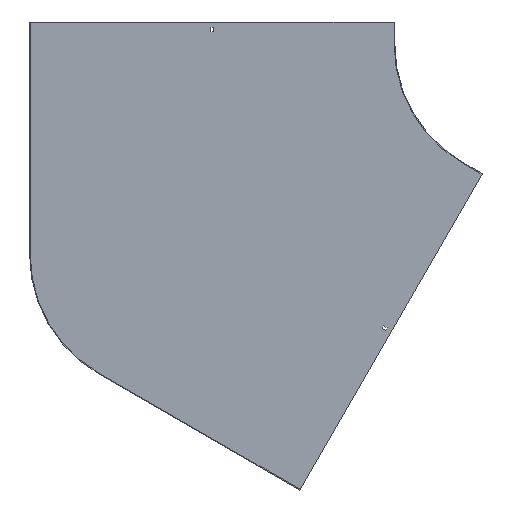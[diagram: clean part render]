
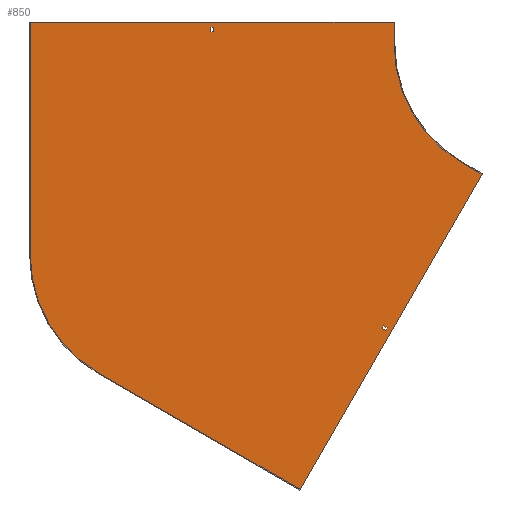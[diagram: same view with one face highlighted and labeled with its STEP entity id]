
A CAD part, front view. The second image highlights one B-rep face of the part: STEP entity #850.
In plain terms, the highlighted planar face has unit normal (0, -1, 0).
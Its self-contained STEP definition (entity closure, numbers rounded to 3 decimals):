
#2 = AXIS2_PLACEMENT_3D ( 'NONE', #111, #252, #511 ) ;
#13 = VERTEX_POINT ( 'NONE', #115 ) ;
#15 = CARTESIAN_POINT ( 'NONE',  ( -950., -1.5, -721.688 ) ) ;
#20 = VERTEX_POINT ( 'NONE', #434 ) ;
#23 = LINE ( 'NONE', #667, #153 ) ;
#24 = CARTESIAN_POINT ( 'NONE',  ( 0., -1.5, 29. ) ) ;
#28 = CARTESIAN_POINT ( 'NONE',  ( -506.699, -1.5, -977.628 ) ) ;
#30 = CARTESIAN_POINT ( 'NONE',  ( -703.25, -1.5, 0. ) ) ;
#42 = DIRECTION ( 'NONE',  ( 0., 0., -1. ) ) ;
#49 = ORIENTED_EDGE ( 'NONE', *, *, #489, .F. ) ;
#66 = FACE_BOUND ( 'NONE', #806, .T. ) ;
#81 = CARTESIAN_POINT ( 'NONE',  ( -348.375, -1.5, -603.403 ) ) ;
#82 = DIRECTION ( 'NONE',  ( 0., -1., 0. ) ) ;
#91 = VERTEX_POINT ( 'NONE', #487 ) ;
#99 = VERTEX_POINT ( 'NONE', #553 ) ;
#111 = CARTESIAN_POINT ( 'NONE',  ( -800., -1.5, -461.88 ) ) ;
#115 = CARTESIAN_POINT ( 'NONE',  ( -300., -1.5, 50. ) ) ;
#120 = CIRCLE ( 'NONE', #166, 300. ) ;
#127 = EDGE_CURVE ( 'NONE', #20, #676, #754, .T. ) ;
#131 = CARTESIAN_POINT ( 'NONE',  ( -105.949, -1.5, -283.509 ) ) ;
#142 = PLANE ( 'NONE',  #452 ) ;
#152 = DIRECTION ( 'NONE',  ( -1., 0., 0. ) ) ;
#153 = VECTOR ( 'NONE', #539, 1000. ) ;
#164 = CARTESIAN_POINT ( 'NONE',  ( -326.51, -1.5, -623.532 ) ) ;
#166 = AXIS2_PLACEMENT_3D ( 'NONE', #306, #435, #42 ) ;
#171 = EDGE_CURVE ( 'NONE', #405, #863, #294, .T. ) ;
#175 = DIRECTION ( 'NONE',  ( 0., 0., -1. ) ) ;
#177 = EDGE_CURVE ( 'NONE', #311, #99, #120, .T. ) ;
#183 = VECTOR ( 'NONE', #664, 1000. ) ;
#189 = EDGE_CURVE ( 'NONE', #863, #441, #261, .T. ) ;
#198 = LINE ( 'NONE', #467, #286 ) ;
#211 = DIRECTION ( 'NONE',  ( 0.866, 0., -0.5 ) ) ;
#220 = VECTOR ( 'NONE', #759, 1000. ) ;
#228 = LINE ( 'NONE', #442, #653 ) ;
#232 = EDGE_CURVE ( 'NONE', #262, #602, #393, .T. ) ;
#237 = FACE_OUTER_BOUND ( 'NONE', #580, .T. ) ;
#240 = DIRECTION ( 'NONE',  ( 0., 0., 1. ) ) ;
#251 = ORIENTED_EDGE ( 'NONE', *, *, #668, .F. ) ;
#252 = DIRECTION ( 'NONE',  ( 0., 1., 0. ) ) ;
#258 = CARTESIAN_POINT ( 'NONE',  ( -318.716, -1.5, -628.032 ) ) ;
#261 = CIRCLE ( 'NONE', #2, 300. ) ;
#262 = VERTEX_POINT ( 'NONE', #812 ) ;
#263 = VECTOR ( 'NONE', #175, 1000. ) ;
#267 = LINE ( 'NONE', #131, #183 ) ;
#274 = LINE ( 'NONE', #541, #462 ) ;
#276 = ORIENTED_EDGE ( 'NONE', *, *, #171, .F. ) ;
#286 = VECTOR ( 'NONE', #729, 1000. ) ;
#289 = ORIENTED_EDGE ( 'NONE', *, *, #232, .F. ) ;
#292 = FACE_BOUND ( 'NONE', #509, .T. ) ;
#294 = LINE ( 'NONE', #28, #536 ) ;
#297 = CARTESIAN_POINT ( 'NONE',  ( -1100., -1.5, -461.88 ) ) ;
#306 = CARTESIAN_POINT ( 'NONE',  ( 0., -1.5, 0. ) ) ;
#308 = EDGE_CURVE ( 'NONE', #99, #91, #274, .T. ) ;
#311 = VERTEX_POINT ( 'NONE', #337 ) ;
#312 = ORIENTED_EDGE ( 'NONE', *, *, #177, .F. ) ;
#324 = ORIENTED_EDGE ( 'NONE', *, *, #127, .T. ) ;
#337 = CARTESIAN_POINT ( 'NONE',  ( -300., -1.5, 0. ) ) ;
#345 = CARTESIAN_POINT ( 'NONE',  ( -300., -1.5, 50. ) ) ;
#367 = ORIENTED_EDGE ( 'NONE', *, *, #847, .F. ) ;
#372 = VECTOR ( 'NONE', #152, 1000. ) ;
#383 = VECTOR ( 'NONE', #649, 1000. ) ;
#393 = LINE ( 'NONE', #81, #607 ) ;
#405 = VERTEX_POINT ( 'NONE', #558 ) ;
#412 = DIRECTION ( 'NONE',  ( -0.866, 0., 0.5 ) ) ;
#434 = CARTESIAN_POINT ( 'NONE',  ( -703.25, -1.5, 38. ) ) ;
#435 = DIRECTION ( 'NONE',  ( 0., -1., 0. ) ) ;
#440 = ORIENTED_EDGE ( 'NONE', *, *, #538, .T. ) ;
#441 = VERTEX_POINT ( 'NONE', #535 ) ;
#442 = CARTESIAN_POINT ( 'NONE',  ( 32.909, -1.5, -19. ) ) ;
#452 = AXIS2_PLACEMENT_3D ( 'NONE', #673, #82, #659 ) ;
#462 = VECTOR ( 'NONE', #211, 1000. ) ;
#467 = CARTESIAN_POINT ( 'NONE',  ( -1101.5, -1.5, 50. ) ) ;
#473 = LINE ( 'NONE', #24, #372 ) ;
#486 = CARTESIAN_POINT ( 'NONE',  ( -696.75, -1.5, 38. ) ) ;
#487 = CARTESIAN_POINT ( 'NONE',  ( -106.699, -1.5, -284.808 ) ) ;
#488 = LINE ( 'NONE', #345, #263 ) ;
#489 = EDGE_CURVE ( 'NONE', #91, #405, #267, .T. ) ;
#492 = DIRECTION ( 'NONE',  ( 0.866, 0., -0.5 ) ) ;
#497 = CARTESIAN_POINT ( 'NONE',  ( -1100., -1.5, 50. ) ) ;
#505 = CARTESIAN_POINT ( 'NONE',  ( -351.625, -1.5, -609.032 ) ) ;
#509 = EDGE_LOOP ( 'NONE', ( #289, #251, #609, #367 ) ) ;
#511 = DIRECTION ( 'NONE',  ( 0., 0., -1. ) ) ;
#524 = EDGE_CURVE ( 'NONE', #699, #13, #198, .T. ) ;
#528 = ORIENTED_EDGE ( 'NONE', *, *, #714, .T. ) ;
#535 = CARTESIAN_POINT ( 'NONE',  ( -1100., -1.5, -461.88 ) ) ;
#536 = VECTOR ( 'NONE', #412, 1000. ) ;
#537 = VECTOR ( 'NONE', #492, 1000. ) ;
#538 = EDGE_CURVE ( 'NONE', #556, #626, #473, .T. ) ;
#539 = DIRECTION ( 'NONE',  ( -0.5, 0., -0.866 ) ) ;
#541 = CARTESIAN_POINT ( 'NONE',  ( -150., -1.5, -259.808 ) ) ;
#553 = CARTESIAN_POINT ( 'NONE',  ( -150., -1.5, -259.808 ) ) ;
#556 = VERTEX_POINT ( 'NONE', #818 ) ;
#558 = CARTESIAN_POINT ( 'NONE',  ( -506.699, -1.5, -977.628 ) ) ;
#560 = ORIENTED_EDGE ( 'NONE', *, *, #724, .F. ) ;
#568 = DIRECTION ( 'NONE',  ( 0.5, 0., 0.866 ) ) ;
#578 = VECTOR ( 'NONE', #240, 1000. ) ;
#579 = CARTESIAN_POINT ( 'NONE',  ( -696.75, -1.5, 0. ) ) ;
#580 = EDGE_LOOP ( 'NONE', ( #862, #654, #768, #276, #49, #751, #312, #560 ) ) ;
#585 = EDGE_CURVE ( 'NONE', #676, #556, #657, .T. ) ;
#602 = VERTEX_POINT ( 'NONE', #788 ) ;
#607 = VECTOR ( 'NONE', #610, 1000. ) ;
#609 = ORIENTED_EDGE ( 'NONE', *, *, #666, .F. ) ;
#610 = DIRECTION ( 'NONE',  ( -0.866, 0., 0.5 ) ) ;
#626 = VERTEX_POINT ( 'NONE', #717 ) ;
#633 = LINE ( 'NONE', #297, #578 ) ;
#635 = VECTOR ( 'NONE', #762, 1000. ) ;
#649 = DIRECTION ( 'NONE',  ( 0., 0., -1. ) ) ;
#653 = VECTOR ( 'NONE', #568, 1000. ) ;
#654 = ORIENTED_EDGE ( 'NONE', *, *, #697, .F. ) ;
#657 = LINE ( 'NONE', #579, #383 ) ;
#659 = DIRECTION ( 'NONE',  ( 0., 0., -1. ) ) ;
#664 = DIRECTION ( 'NONE',  ( -0.5, 0., -0.866 ) ) ;
#666 = EDGE_CURVE ( 'NONE', #686, #702, #710, .T. ) ;
#667 = CARTESIAN_POINT ( 'NONE',  ( 25.115, -1.5, -14.5 ) ) ;
#668 = EDGE_CURVE ( 'NONE', #702, #262, #228, .T. ) ;
#673 = CARTESIAN_POINT ( 'NONE',  ( 0., -1.5, 0. ) ) ;
#676 = VERTEX_POINT ( 'NONE', #486 ) ;
#686 = VERTEX_POINT ( 'NONE', #164 ) ;
#697 = EDGE_CURVE ( 'NONE', #441, #699, #633, .T. ) ;
#699 = VERTEX_POINT ( 'NONE', #497 ) ;
#702 = VERTEX_POINT ( 'NONE', #258 ) ;
#710 = LINE ( 'NONE', #505, #537 ) ;
#714 = EDGE_CURVE ( 'NONE', #626, #20, #772, .T. ) ;
#717 = CARTESIAN_POINT ( 'NONE',  ( -703.25, -1.5, 29. ) ) ;
#724 = EDGE_CURVE ( 'NONE', #13, #311, #488, .T. ) ;
#725 = ORIENTED_EDGE ( 'NONE', *, *, #585, .T. ) ;
#729 = DIRECTION ( 'NONE',  ( 1., 0., 0. ) ) ;
#751 = ORIENTED_EDGE ( 'NONE', *, *, #308, .F. ) ;
#754 = LINE ( 'NONE', #842, #635 ) ;
#759 = DIRECTION ( 'NONE',  ( 0., 0., 1. ) ) ;
#762 = DIRECTION ( 'NONE',  ( 1., 0., 0. ) ) ;
#768 = ORIENTED_EDGE ( 'NONE', *, *, #189, .F. ) ;
#772 = LINE ( 'NONE', #30, #220 ) ;
#788 = CARTESIAN_POINT ( 'NONE',  ( -323.26, -1.5, -617.903 ) ) ;
#806 = EDGE_LOOP ( 'NONE', ( #324, #725, #440, #528 ) ) ;
#812 = CARTESIAN_POINT ( 'NONE',  ( -315.466, -1.5, -622.403 ) ) ;
#818 = CARTESIAN_POINT ( 'NONE',  ( -696.75, -1.5, 29. ) ) ;
#842 = CARTESIAN_POINT ( 'NONE',  ( 0., -1.5, 38. ) ) ;
#847 = EDGE_CURVE ( 'NONE', #602, #686, #23, .T. ) ;
#850 = ADVANCED_FACE ( 'NONE', ( #292, #237, #66 ), #142, .T. ) ;
#862 = ORIENTED_EDGE ( 'NONE', *, *, #524, .F. ) ;
#863 = VERTEX_POINT ( 'NONE', #15 ) ;
